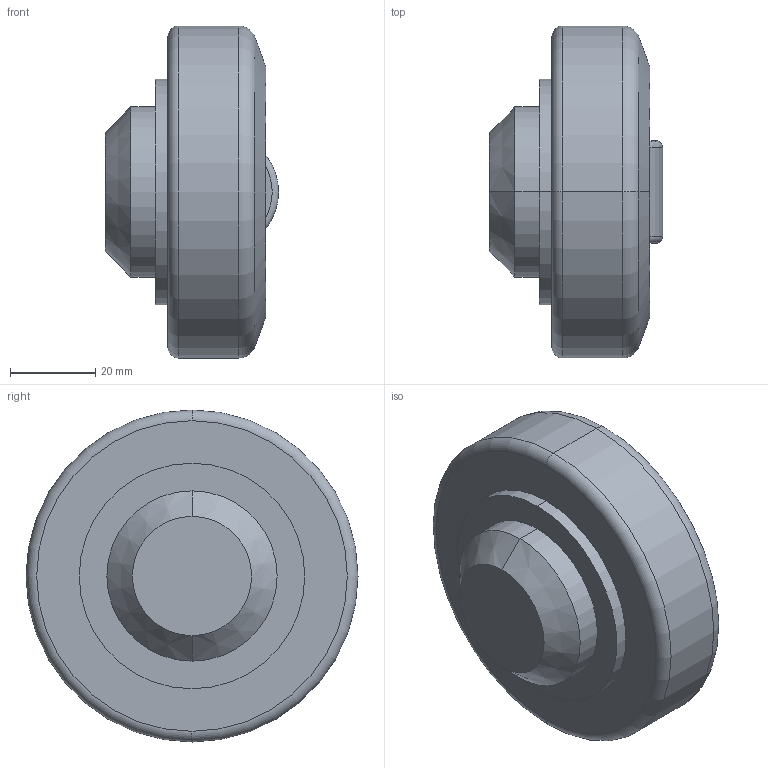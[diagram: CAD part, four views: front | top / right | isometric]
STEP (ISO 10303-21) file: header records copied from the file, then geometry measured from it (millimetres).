
FILE_DESCRIPTION (( 'STEP AP214' ), '1' );
FILE_NAME ('3D40057-78.STEP', '2014-01-17T05:29:04', ( 'usuario' ), ( 'Hewlett-Packard Company' ), 'SwSTEP 2.0', 'SolidWorks 2017', '' );
FILE_SCHEMA (( 'AUTOMOTIVE_DESIGN' ));
Length unit declared in the file: millimetre
Products named in the file (1): 3D40057-78
Bounding box: 40.7 x 78 x 78 mm (x, y, z)
Volume: 125524.7 mm3; surface area: 15579.8 mm2
Topology: 1 solids, 1 shells, 23 faces, 46 edges, 28 vertices
Faces by surface type: cylinder 7, torus 6, plane 6, cone 4
Entity records: 678 total; most frequent: CARTESIAN_POINT 146, DIRECTION 118, ORIENTED_EDGE 92, AXIS2_PLACEMENT_3D 52, EDGE_CURVE 46, VERTEX_POINT 28, CIRCLE 28, EDGE_LOOP 26
